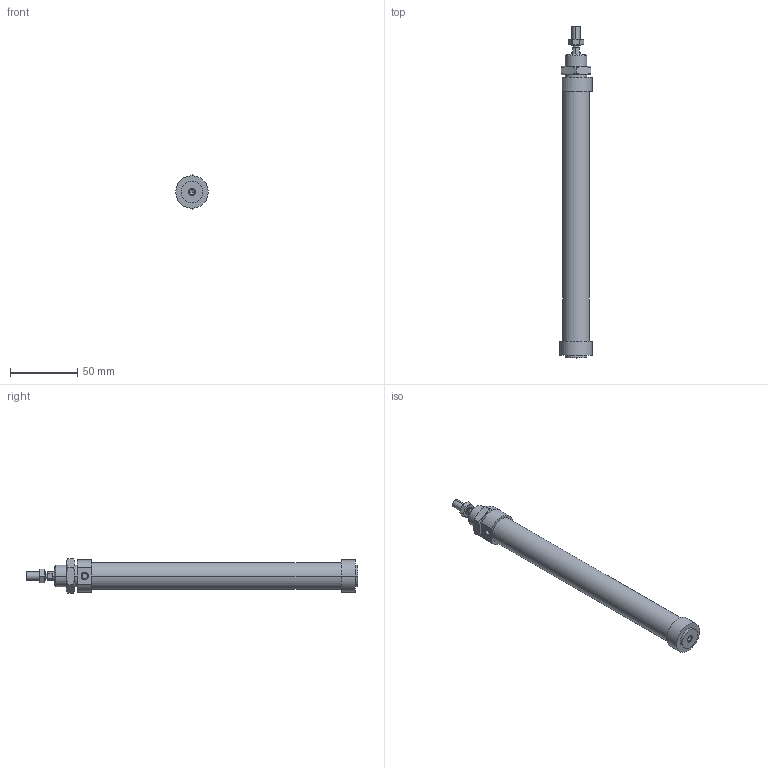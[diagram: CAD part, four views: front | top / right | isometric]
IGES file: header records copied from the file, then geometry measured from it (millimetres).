
Global section: file name: No Iges File Name specified; native system: AutoDesk Inventor R6.0; preprocessor: AutoDesk Inventor Iges Exporter R6.0; author: No Author specified; organization: No Organization specified; date: 20030402.184210; units: millimetre
Bounding box: 24 x 246 x 25.4 mm (x, y, z)
Volume: 73419.1 mm3; surface area: 24041.4 mm2
Topology: 4 solids, 4 shells, 108 faces, 229 edges, 135 vertices
Faces by surface type: cone 34, plane 33, bspline 21, cylinder 16, revolution 4
